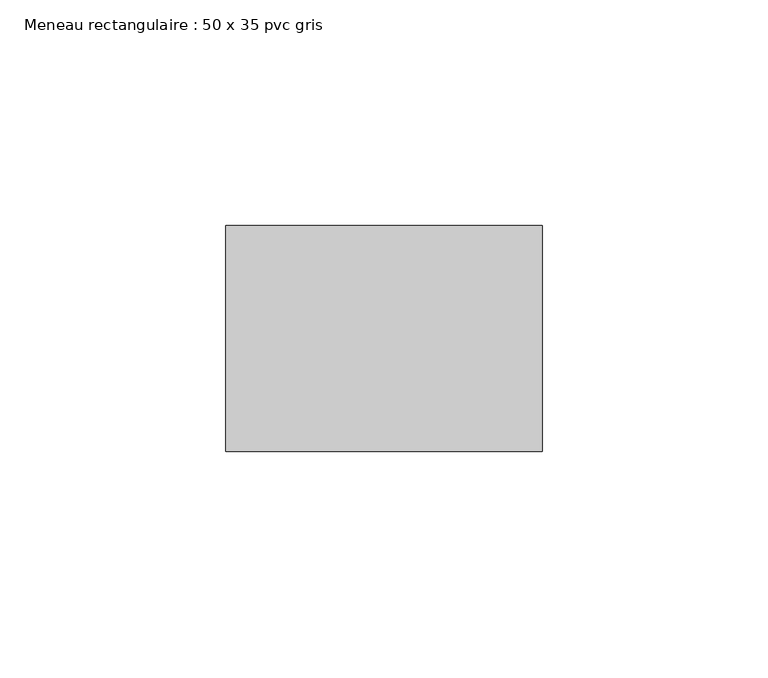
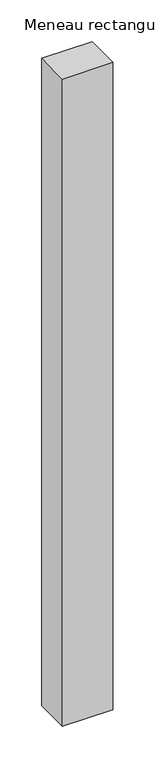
"""IFC4 building model written with IfcOpenShell, lengths in millimetres: member geometry, Meneau rectangulaire : 50 x 35 pvc gris."""

from ifc_helpers import new_model, si_unit, frame, origin, place, context, project, spatial, polyline, outline, extrude, source, transform, mapped, element, save


def meneau_rectangulaire_50_x_35_pvc_gris_df9d108c(model_context):
    return source(origin(), model_context, "Body", "SweptSolid", [
        extrude(outline(polyline([(35.0, 0.0), (35.0, -50.0), (-35.0, -50.0), (-35.0, 0.0), (35.0, 0.0)])), frame((0.0, 0.0, -949.0), z_axis=(0.0, 0.0, 1.0), x_axis=(1.0, 0.0, 0.0)), (0.0, 0.0, 1.0), 949.0),
    ])


if __name__ == "__main__":
    model = new_model("IFC4")
    model_context = context("Model", 3, world=origin())
    ifc_project = project(units=[si_unit("LENGTHUNIT", "METRE", prefix="MILLI")], contexts=[model_context])
    site = spatial("IfcSite", under=ifc_project)
    building = spatial("IfcBuilding", under=site)
    placement = place(None, origin())
    meneau_rectangulaire_50_x_35_pvc_gris_shape = meneau_rectangulaire_50_x_35_pvc_gris_df9d108c(model_context)
    element("IfcMember", 1, ObjectType="Meneau rectangulaire : 50 x 35 pvc gris", at=placement, inside=building, context=model_context, shape_type="MappedRepresentation", body=[
        mapped(meneau_rectangulaire_50_x_35_pvc_gris_shape, transform((0.0, 0.0, 0.0), x_axis=(1.0, 0.0, 0.0), y_axis=(0.0, 1.0, 0.0), z_axis=(0.0, 0.0, 1.0))),
    ])
    save(model, "model.ifc")
